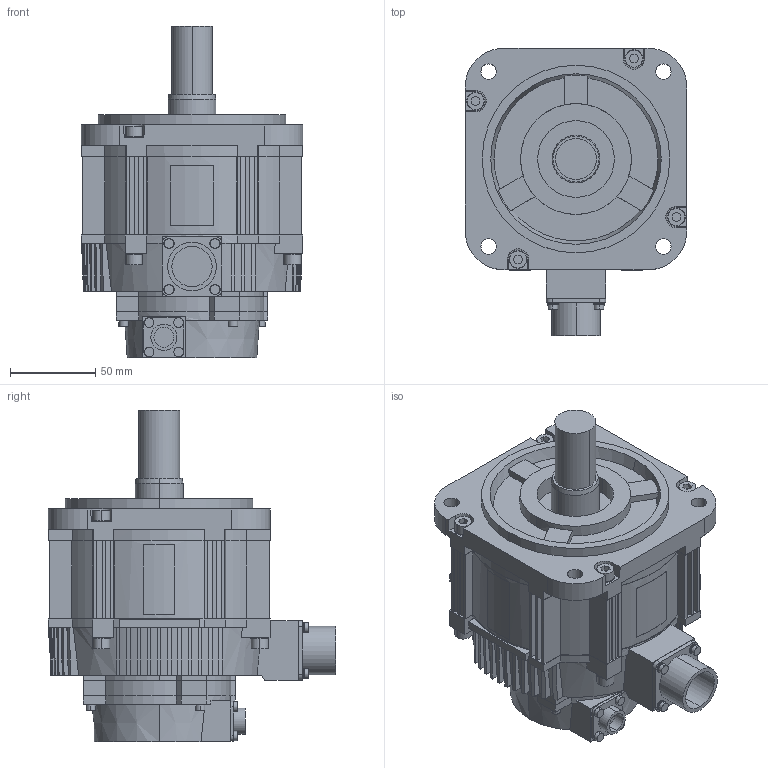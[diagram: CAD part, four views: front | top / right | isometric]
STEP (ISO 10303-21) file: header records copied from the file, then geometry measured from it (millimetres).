
FILE_DESCRIPTION((''),'2;1');
FILE_NAME('SGM7G_09_A21','2013-11-20T',('y-kamei'),('YASKAWA ELECTRIC CORCORATION'),'PRO/ENGINEER BY PARAMETRIC TECHNOLOGY CORPORATION, 2011490','PRO/ENGINEER BY PARAMETRIC TECHNOLOGY CORPORATION, 2011490','');
FILE_SCHEMA(('AUTOMOTIVE_DESIGN { 1 0 10303 214 1 1 1 1 }'));
Length unit declared in the file: millimetre
Products named in the file (1): SGM7G_09_A21
Bounding box: 130 x 168.49 x 194.6 mm (x, y, z)
Volume: 1615127.5 mm3; surface area: 133355.1 mm2
Topology: 1 solids, 1 shells, 801 faces, 2110 edges, 1378 vertices
Faces by surface type: plane 521, cylinder 192, cone 88
Entity records: 31282 total; most frequent: CARTESIAN_POINT 5015, ORIENTED_EDGE 4220, DIRECTION 4164, EDGE_CURVE 2110, AXIS2_PLACEMENT_3D 1429, VERTEX_POINT 1378, VECTOR 1306, LINE 1306
